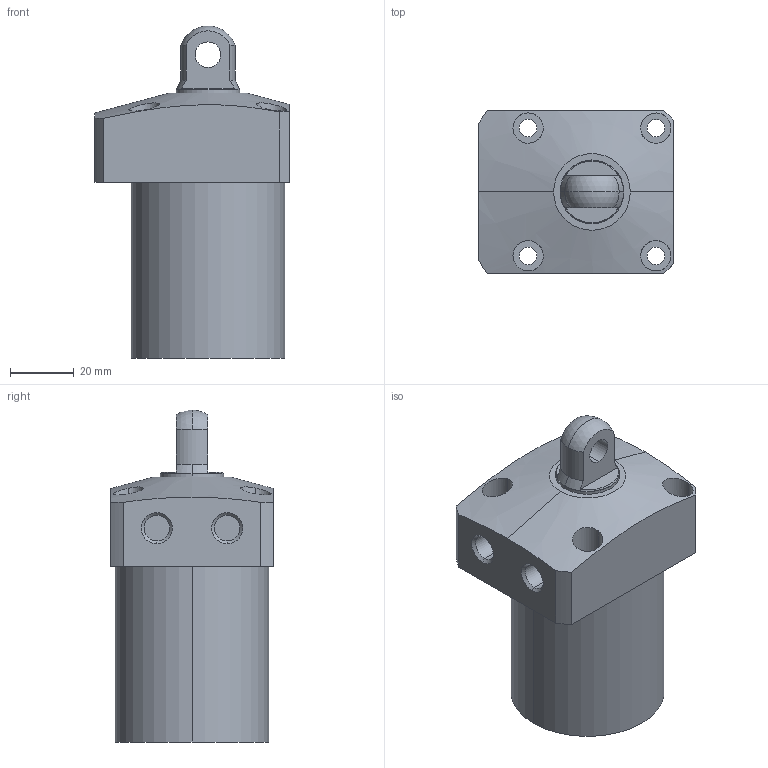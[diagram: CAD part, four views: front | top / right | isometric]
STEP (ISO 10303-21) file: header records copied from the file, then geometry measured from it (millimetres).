
FILE_DESCRIPTION (( 'STEP AP203' ), '1' );
FILE_NAME ('CLL-0480-CP-045.STEP', '2017-05-09T02:47:48', ( '' ), ( '' ), 'SwSTEP 2.0', 'SolidWorks 2015', '' );
FILE_SCHEMA (( 'CONFIG_CONTROL_DESIGN' ));
Length unit declared in the file: millimetre
Products named in the file (1): CLL-0480-CP-045
Bounding box: 61 x 51 x 104 mm (x, y, z)
Volume: 175196.1 mm3; surface area: 22981.7 mm2
Topology: 1 solids, 1 shells, 67 faces, 157 edges, 103 vertices
Faces by surface type: cylinder 35, plane 22, cone 8, sphere 2
Entity records: 2360 total; most frequent: CARTESIAN_POINT 682, DIRECTION 351, ORIENTED_EDGE 314, EDGE_CURVE 157, AXIS2_PLACEMENT_3D 146, VERTEX_POINT 103, EDGE_LOOP 88, CIRCLE 78
